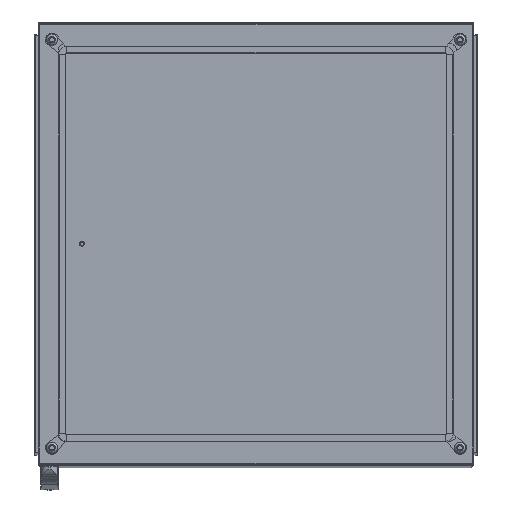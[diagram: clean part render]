
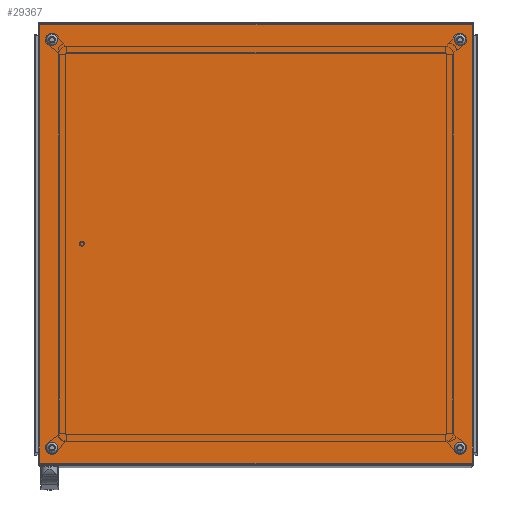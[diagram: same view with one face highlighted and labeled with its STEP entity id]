
A CAD part, top view. The second image highlights one B-rep face of the part: STEP entity #29367.
In plain terms, the highlighted planar face has unit normal (0, 0, 1).
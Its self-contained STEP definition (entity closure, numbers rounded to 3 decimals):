
#1421=CIRCLE('',#31492,6.);
#1422=CIRCLE('',#31493,6.);
#1423=CIRCLE('',#31494,6.);
#1424=CIRCLE('',#31495,6.);
#5329=ORIENTED_EDGE('',*,*,#12419,.F.);
#5330=ORIENTED_EDGE('',*,*,#12420,.F.);
#5331=ORIENTED_EDGE('',*,*,#12421,.F.);
#5332=ORIENTED_EDGE('',*,*,#12422,.F.);
#5333=ORIENTED_EDGE('',*,*,#12408,.T.);
#5334=ORIENTED_EDGE('',*,*,#12416,.T.);
#5335=ORIENTED_EDGE('',*,*,#12379,.F.);
#5336=ORIENTED_EDGE('',*,*,#12423,.F.);
#12379=EDGE_CURVE('',#16159,#16160,#19099,.T.);
#12408=EDGE_CURVE('',#16181,#16180,#19105,.T.);
#12416=EDGE_CURVE('',#16180,#16160,#19110,.T.);
#12419=EDGE_CURVE('',#16182,#16182,#1421,.T.);
#12420=EDGE_CURVE('',#16183,#16183,#1422,.T.);
#12421=EDGE_CURVE('',#16184,#16184,#1423,.T.);
#12422=EDGE_CURVE('',#16185,#16185,#1424,.T.);
#12423=EDGE_CURVE('',#16181,#16159,#19113,.T.);
#16159=VERTEX_POINT('',#45659);
#16160=VERTEX_POINT('',#45661);
#16180=VERTEX_POINT('',#45735);
#16181=VERTEX_POINT('',#45737);
#16182=VERTEX_POINT('',#45754);
#16183=VERTEX_POINT('',#45756);
#16184=VERTEX_POINT('',#45758);
#16185=VERTEX_POINT('',#45760);
#19099=LINE('',#45660,#21640);
#19105=LINE('',#45736,#21646);
#19110=LINE('',#45748,#21651);
#19113=LINE('',#45761,#21654);
#21640=VECTOR('',#36554,1000.);
#21646=VECTOR('',#36608,1000.);
#21651=VECTOR('',#36625,1000.);
#21654=VECTOR('',#36640,1000.);
#23879=EDGE_LOOP('',(#5329));
#23880=EDGE_LOOP('',(#5330));
#23881=EDGE_LOOP('',(#5331));
#23882=EDGE_LOOP('',(#5332));
#23883=EDGE_LOOP('',(#5333,#5334,#5335,#5336));
#26314=FACE_BOUND('',#23879,.T.);
#26315=FACE_BOUND('',#23880,.T.);
#26316=FACE_BOUND('',#23881,.T.);
#26317=FACE_BOUND('',#23882,.T.);
#26318=FACE_BOUND('',#23883,.T.);
#28406=PLANE('',#31491);
#29367=ADVANCED_FACE('',(#26314,#26315,#26316,#26317,#26318),#28406,.T.);
#31491=AXIS2_PLACEMENT_3D('',#45752,#36630,#36631);
#31492=AXIS2_PLACEMENT_3D('',#45753,#36632,#36633);
#31493=AXIS2_PLACEMENT_3D('',#45755,#36634,#36635);
#31494=AXIS2_PLACEMENT_3D('',#45757,#36636,#36637);
#31495=AXIS2_PLACEMENT_3D('',#45759,#36638,#36639);
#36554=DIRECTION('',(-1.,0.,0.));
#36608=DIRECTION('',(-1.,0.,0.));
#36625=DIRECTION('',(0.,-1.,0.));
#36630=DIRECTION('',(0.,0.,1.));
#36631=DIRECTION('',(1.,0.,0.));
#36632=DIRECTION('',(0.,0.,1.));
#36633=DIRECTION('',(1.,0.,0.));
#36634=DIRECTION('',(0.,0.,1.));
#36635=DIRECTION('',(1.,0.,0.));
#36636=DIRECTION('',(0.,0.,1.));
#36637=DIRECTION('',(1.,0.,0.));
#36638=DIRECTION('',(0.,0.,1.));
#36639=DIRECTION('',(1.,0.,0.));
#36640=DIRECTION('',(0.,-1.,0.));
#45659=CARTESIAN_POINT('',(396.5,-402.5,20.));
#45660=CARTESIAN_POINT('',(400.,-402.5,20.));
#45661=CARTESIAN_POINT('',(-396.5,-402.5,20.));
#45735=CARTESIAN_POINT('',(-396.5,402.5,20.));
#45736=CARTESIAN_POINT('',(400.,402.5,20.));
#45737=CARTESIAN_POINT('',(396.5,402.5,20.));
#45748=CARTESIAN_POINT('',(-396.5,405.5,20.));
#45752=CARTESIAN_POINT('',(-396.5,-402.5,20.));
#45753=CARTESIAN_POINT('',(374.5,-374.5,20.));
#45754=CARTESIAN_POINT('',(380.5,-374.5,20.));
#45755=CARTESIAN_POINT('',(-374.5,374.5,20.));
#45756=CARTESIAN_POINT('',(-368.5,374.5,20.));
#45757=CARTESIAN_POINT('',(374.5,374.5,20.));
#45758=CARTESIAN_POINT('',(380.5,374.5,20.));
#45759=CARTESIAN_POINT('',(-374.5,-374.5,20.));
#45760=CARTESIAN_POINT('',(-368.5,-374.5,20.));
#45761=CARTESIAN_POINT('',(396.5,405.5,20.));
